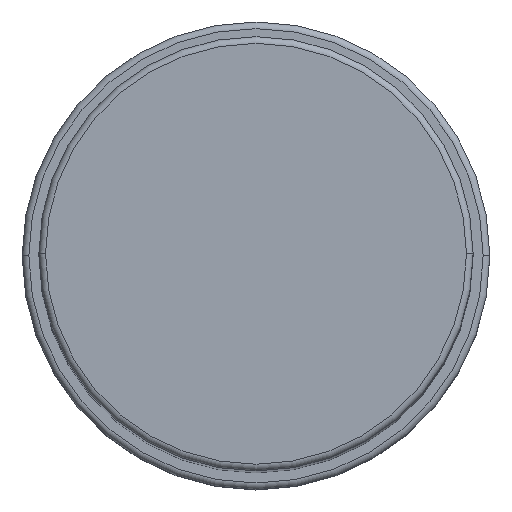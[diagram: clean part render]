
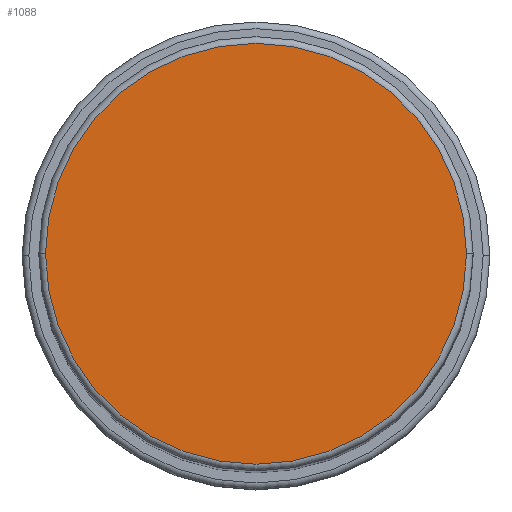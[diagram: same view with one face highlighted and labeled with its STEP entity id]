
A CAD part, top view. The second image highlights one B-rep face of the part: STEP entity #1088.
In plain terms, the highlighted planar face has unit normal (0, 0, 1).
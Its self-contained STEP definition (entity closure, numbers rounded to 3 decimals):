
#222 = CARTESIAN_POINT ( 'NONE',  ( 0., 0., 188. ) ) ;
#337 = CARTESIAN_POINT ( 'NONE',  ( -31.5, 0., 188. ) ) ;
#637 = DIRECTION ( 'NONE',  ( 1., 0., 0. ) ) ;
#774 = CARTESIAN_POINT ( 'NONE',  ( 31.5, 0., 188. ) ) ;
#1027 = ORIENTED_EDGE ( 'NONE', *, *, #3158, .T. ) ;
#1088 = ADVANCED_FACE ( 'NONE', ( #3963 ), #2311, .T. ) ;
#1234 = DIRECTION ( 'NONE',  ( 1., 0., 0. ) ) ;
#1398 = EDGE_LOOP ( 'NONE', ( #1027, #4130 ) ) ;
#1563 = DIRECTION ( 'NONE',  ( 1., 0., 0. ) ) ;
#1936 = AXIS2_PLACEMENT_3D ( 'NONE', #222, #4418, #637 ) ;
#2149 = DIRECTION ( 'NONE',  ( 0., 0., 1. ) ) ;
#2306 = AXIS2_PLACEMENT_3D ( 'NONE', #3227, #5348, #1563 ) ;
#2311 = PLANE ( 'NONE',  #1936 ) ;
#2702 = VERTEX_POINT ( 'NONE', #774 ) ;
#2744 = EDGE_CURVE ( 'NONE', #3215, #2702, #4300, .T. ) ;
#2945 = CARTESIAN_POINT ( 'NONE',  ( 0., 0., 188. ) ) ;
#3158 = EDGE_CURVE ( 'NONE', #2702, #3215, #4425, .T. ) ;
#3215 = VERTEX_POINT ( 'NONE', #337 ) ;
#3227 = CARTESIAN_POINT ( 'NONE',  ( 0., 0., 188. ) ) ;
#3963 = FACE_OUTER_BOUND ( 'NONE', #1398, .T. ) ;
#4130 = ORIENTED_EDGE ( 'NONE', *, *, #2744, .T. ) ;
#4300 = CIRCLE ( 'NONE', #4326, 31.5 ) ;
#4326 = AXIS2_PLACEMENT_3D ( 'NONE', #2945, #2149, #1234 ) ;
#4418 = DIRECTION ( 'NONE',  ( 0., 0., 1. ) ) ;
#4425 = CIRCLE ( 'NONE', #2306, 31.5 ) ;
#5348 = DIRECTION ( 'NONE',  ( 0., 0., 1. ) ) ;
